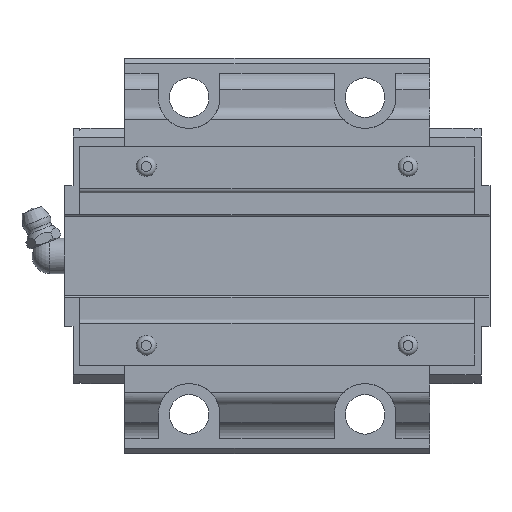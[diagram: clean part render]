
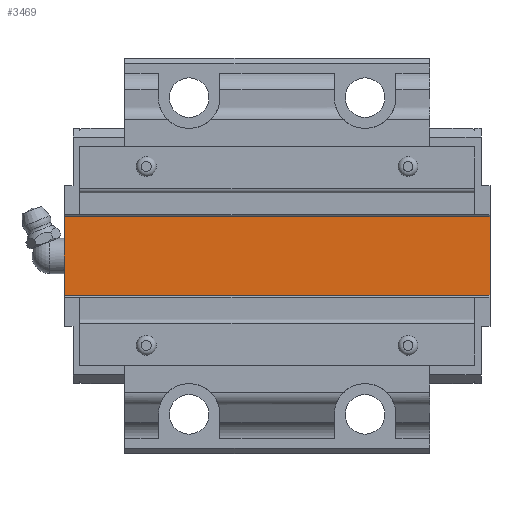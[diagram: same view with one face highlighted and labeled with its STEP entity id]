
A CAD part, front view. The second image highlights one B-rep face of the part: STEP entity #3469.
In plain terms, the highlighted planar face has unit normal (0, -1, 0).
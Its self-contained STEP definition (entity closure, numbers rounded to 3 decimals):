
#222=LINE('',#5332,#580);
#230=LINE('',#5356,#588);
#386=LINE('',#5822,#744);
#387=LINE('',#5824,#745);
#580=VECTOR('',#4201,1000.);
#588=VECTOR('',#4219,1000.);
#744=VECTOR('',#4643,1000.);
#745=VECTOR('',#4646,1000.);
#869=PLANE('',#3768);
#1893=ORIENTED_EDGE('',*,*,#2225,.F.);
#1894=ORIENTED_EDGE('',*,*,#2449,.F.);
#1895=ORIENTED_EDGE('',*,*,#2237,.T.);
#1896=ORIENTED_EDGE('',*,*,#2450,.T.);
#2225=EDGE_CURVE('',#2646,#2647,#222,.T.);
#2237=EDGE_CURVE('',#2658,#2657,#230,.T.);
#2449=EDGE_CURVE('',#2658,#2646,#386,.T.);
#2450=EDGE_CURVE('',#2657,#2647,#387,.T.);
#2646=VERTEX_POINT('',#5331);
#2647=VERTEX_POINT('',#5333);
#2657=VERTEX_POINT('',#5355);
#2658=VERTEX_POINT('',#5357);
#3021=EDGE_LOOP('',(#1893,#1894,#1895,#1896));
#3252=FACE_BOUND('',#3021,.T.);
#3469=ADVANCED_FACE('',(#3252),#869,.T.);
#3768=AXIS2_PLACEMENT_3D('',#5823,#4644,#4645);
#4201=DIRECTION('',(0.,0.,1.));
#4219=DIRECTION('',(0.,0.,1.));
#4643=DIRECTION('',(-1.,0.,0.));
#4644=DIRECTION('',(0.,-1.,0.));
#4645=DIRECTION('',(0.,0.,-1.));
#4646=DIRECTION('',(-1.,0.,0.));
#5331=CARTESIAN_POINT('',(-48.4,13.5,-8.949));
#5332=CARTESIAN_POINT('',(-48.4,13.5,-8.949));
#5333=CARTESIAN_POINT('',(-48.4,13.5,8.949));
#5355=CARTESIAN_POINT('',(48.4,13.5,8.949));
#5356=CARTESIAN_POINT('',(48.4,13.5,-8.949));
#5357=CARTESIAN_POINT('',(48.4,13.5,-8.949));
#5822=CARTESIAN_POINT('',(48.4,13.5,-8.949));
#5823=CARTESIAN_POINT('',(48.4,13.5,-8.949));
#5824=CARTESIAN_POINT('',(48.4,13.5,8.949));
